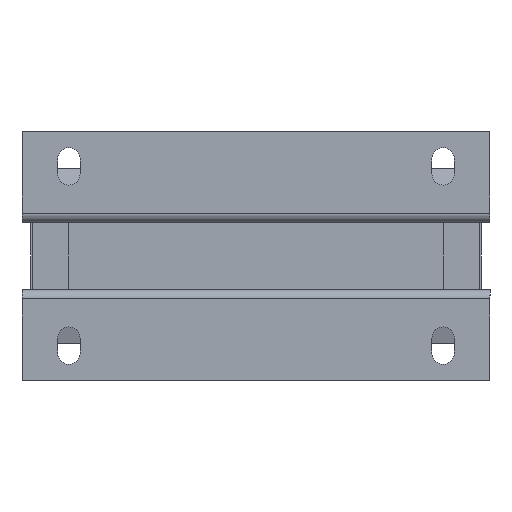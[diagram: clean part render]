
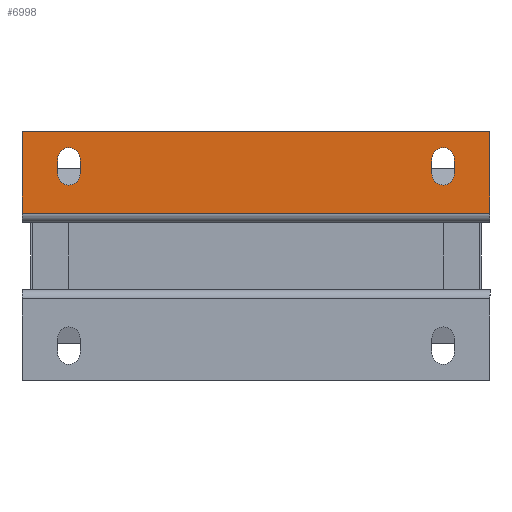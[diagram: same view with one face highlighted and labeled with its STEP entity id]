
A CAD part, front view. The second image highlights one B-rep face of the part: STEP entity #6998.
In plain terms, the highlighted planar face has unit normal (0, -1, 0).
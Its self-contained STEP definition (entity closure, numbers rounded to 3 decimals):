
#66 = VERTEX_POINT ( 'NONE', #2026 ) ;
#299 = VERTEX_POINT ( 'NONE', #3651 ) ;
#383 = DIRECTION ( 'NONE',  ( 0., 0., 1. ) ) ;
#537 = CIRCLE ( 'NONE', #11386, 2.4 ) ;
#616 = ORIENTED_EDGE ( 'NONE', *, *, #9431, .T. ) ;
#710 = ORIENTED_EDGE ( 'NONE', *, *, #3116, .T. ) ;
#736 = CIRCLE ( 'NONE', #2407, 2.4 ) ;
#826 = ORIENTED_EDGE ( 'NONE', *, *, #9213, .T. ) ;
#908 = DIRECTION ( 'NONE',  ( 1., 0., 0. ) ) ;
#957 = EDGE_CURVE ( 'NONE', #8330, #299, #537, .T. ) ;
#986 = LINE ( 'NONE', #1850, #6992 ) ;
#1199 = ORIENTED_EDGE ( 'NONE', *, *, #2704, .T. ) ;
#1372 = LINE ( 'NONE', #5336, #10038 ) ;
#1457 = AXIS2_PLACEMENT_3D ( 'NONE', #12070, #11082, #10102 ) ;
#1674 = EDGE_CURVE ( 'NONE', #4477, #11687, #5210, .T. ) ;
#1833 = AXIS2_PLACEMENT_3D ( 'NONE', #11451, #6629, #8394 ) ;
#1850 = CARTESIAN_POINT ( 'NONE',  ( 50., 0., 9.15 ) ) ;
#1971 = DIRECTION ( 'NONE',  ( 1., 0., 0. ) ) ;
#2026 = CARTESIAN_POINT ( 'NONE',  ( 37.6, 0., 20.75 ) ) ;
#2313 = AXIS2_PLACEMENT_3D ( 'NONE', #7581, #3717, #10441 ) ;
#2407 = AXIS2_PLACEMENT_3D ( 'NONE', #4698, #12491, #11690 ) ;
#2624 = CARTESIAN_POINT ( 'NONE',  ( -37.6, 0., 20.75 ) ) ;
#2691 = VECTOR ( 'NONE', #10602, 1000. ) ;
#2704 = EDGE_CURVE ( 'NONE', #8050, #12935, #7930, .T. ) ;
#2776 = CARTESIAN_POINT ( 'NONE',  ( 40., 0., 17.55 ) ) ;
#2864 = VERTEX_POINT ( 'NONE', #3167 ) ;
#2979 = CARTESIAN_POINT ( 'NONE',  ( -50., 0., 9.15 ) ) ;
#3033 = LINE ( 'NONE', #10989, #11921 ) ;
#3116 = EDGE_CURVE ( 'NONE', #5576, #5620, #3033, .T. ) ;
#3167 = CARTESIAN_POINT ( 'NONE',  ( -37.6, 0., 17.55 ) ) ;
#3373 = PLANE ( 'NONE',  #1457 ) ;
#3460 = DIRECTION ( 'NONE',  ( 0., 0., -1. ) ) ;
#3617 = ORIENTED_EDGE ( 'NONE', *, *, #12941, .T. ) ;
#3651 = CARTESIAN_POINT ( 'NONE',  ( 37.6, 0., 17.55 ) ) ;
#3717 = DIRECTION ( 'NONE',  ( 0., 1., 0. ) ) ;
#3753 = ORIENTED_EDGE ( 'NONE', *, *, #957, .T. ) ;
#3812 = VERTEX_POINT ( 'NONE', #12276 ) ;
#3848 = CARTESIAN_POINT ( 'NONE',  ( 50., 0., 26.65 ) ) ;
#4477 = VERTEX_POINT ( 'NONE', #11301 ) ;
#4698 = CARTESIAN_POINT ( 'NONE',  ( 40., 0., 20.75 ) ) ;
#4921 = ORIENTED_EDGE ( 'NONE', *, *, #7323, .T. ) ;
#4938 = EDGE_LOOP ( 'NONE', ( #710, #826, #8546, #8583 ) ) ;
#4964 = ORIENTED_EDGE ( 'NONE', *, *, #8544, .T. ) ;
#5111 = CARTESIAN_POINT ( 'NONE',  ( -50., 0., 26.65 ) ) ;
#5179 = CARTESIAN_POINT ( 'NONE',  ( 37.6, 0., 20.75 ) ) ;
#5210 = LINE ( 'NONE', #9139, #8385 ) ;
#5336 = CARTESIAN_POINT ( 'NONE',  ( -42.4, 0., 20.75 ) ) ;
#5370 = DIRECTION ( 'NONE',  ( 0., 0., 1. ) ) ;
#5576 = VERTEX_POINT ( 'NONE', #5111 ) ;
#5620 = VERTEX_POINT ( 'NONE', #2979 ) ;
#5862 = LINE ( 'NONE', #3848, #12259 ) ;
#5956 = EDGE_CURVE ( 'NONE', #3812, #8330, #11582, .T. ) ;
#6093 = VECTOR ( 'NONE', #3460, 1000. ) ;
#6113 = FACE_BOUND ( 'NONE', #7041, .T. ) ;
#6320 = CARTESIAN_POINT ( 'NONE',  ( -37.6, 0., 20.75 ) ) ;
#6629 = DIRECTION ( 'NONE',  ( 0., 1., 0. ) ) ;
#6992 = VECTOR ( 'NONE', #1971, 1000. ) ;
#6998 = ADVANCED_FACE ( 'NONE', ( #6113, #9381, #7230 ), #3373, .F. ) ;
#7041 = EDGE_LOOP ( 'NONE', ( #4964, #11003, #10256, #3753 ) ) ;
#7230 = FACE_OUTER_BOUND ( 'NONE', #4938, .T. ) ;
#7233 = CARTESIAN_POINT ( 'NONE',  ( -42.4, 0., 17.55 ) ) ;
#7323 = EDGE_CURVE ( 'NONE', #2864, #8106, #10151, .T. ) ;
#7532 = CARTESIAN_POINT ( 'NONE',  ( 50., 0., 9.15 ) ) ;
#7581 = CARTESIAN_POINT ( 'NONE',  ( -40., 0., 20.75 ) ) ;
#7742 = DIRECTION ( 'NONE',  ( 0., 0., -1. ) ) ;
#7793 = DIRECTION ( 'NONE',  ( 0., 1., 0. ) ) ;
#7930 = CIRCLE ( 'NONE', #2313, 2.4 ) ;
#7932 = CARTESIAN_POINT ( 'NONE',  ( 42.4, 0., 17.55 ) ) ;
#7949 = EDGE_CURVE ( 'NONE', #5576, #4477, #5862, .T. ) ;
#8050 = VERTEX_POINT ( 'NONE', #8342 ) ;
#8106 = VERTEX_POINT ( 'NONE', #7233 ) ;
#8330 = VERTEX_POINT ( 'NONE', #7932 ) ;
#8342 = CARTESIAN_POINT ( 'NONE',  ( -42.4, 0., 20.75 ) ) ;
#8385 = VECTOR ( 'NONE', #11164, 1000. ) ;
#8394 = DIRECTION ( 'NONE',  ( -1., 0., 0. ) ) ;
#8544 = EDGE_CURVE ( 'NONE', #299, #66, #12318, .T. ) ;
#8546 = ORIENTED_EDGE ( 'NONE', *, *, #1674, .F. ) ;
#8583 = ORIENTED_EDGE ( 'NONE', *, *, #7949, .F. ) ;
#9139 = CARTESIAN_POINT ( 'NONE',  ( 50., 0., 8.15 ) ) ;
#9213 = EDGE_CURVE ( 'NONE', #5620, #11687, #986, .T. ) ;
#9381 = FACE_BOUND ( 'NONE', #11798, .T. ) ;
#9431 = EDGE_CURVE ( 'NONE', #12935, #2864, #10514, .T. ) ;
#10038 = VECTOR ( 'NONE', #383, 1000. ) ;
#10102 = DIRECTION ( 'NONE',  ( 0., 0., 1. ) ) ;
#10151 = CIRCLE ( 'NONE', #1833, 2.4 ) ;
#10256 = ORIENTED_EDGE ( 'NONE', *, *, #5956, .T. ) ;
#10441 = DIRECTION ( 'NONE',  ( -1., 0., 0. ) ) ;
#10514 = LINE ( 'NONE', #2624, #6093 ) ;
#10602 = DIRECTION ( 'NONE',  ( 0., 0., -1. ) ) ;
#10666 = DIRECTION ( 'NONE',  ( -1., 0., 0. ) ) ;
#10761 = EDGE_CURVE ( 'NONE', #66, #3812, #736, .T. ) ;
#10989 = CARTESIAN_POINT ( 'NONE',  ( -50., 0., 8.15 ) ) ;
#11003 = ORIENTED_EDGE ( 'NONE', *, *, #10761, .T. ) ;
#11082 = DIRECTION ( 'NONE',  ( 0., 1., 0. ) ) ;
#11164 = DIRECTION ( 'NONE',  ( 0., 0., -1. ) ) ;
#11301 = CARTESIAN_POINT ( 'NONE',  ( 50., 0., 26.65 ) ) ;
#11386 = AXIS2_PLACEMENT_3D ( 'NONE', #2776, #7793, #10666 ) ;
#11451 = CARTESIAN_POINT ( 'NONE',  ( -40., 0., 17.55 ) ) ;
#11582 = LINE ( 'NONE', #12772, #2691 ) ;
#11687 = VERTEX_POINT ( 'NONE', #7532 ) ;
#11690 = DIRECTION ( 'NONE',  ( -1., 0., 0. ) ) ;
#11798 = EDGE_LOOP ( 'NONE', ( #3617, #1199, #616, #4921 ) ) ;
#11921 = VECTOR ( 'NONE', #7742, 1000. ) ;
#12070 = CARTESIAN_POINT ( 'NONE',  ( -50., 0., 8.15 ) ) ;
#12259 = VECTOR ( 'NONE', #908, 1000. ) ;
#12276 = CARTESIAN_POINT ( 'NONE',  ( 42.4, 0., 20.75 ) ) ;
#12318 = LINE ( 'NONE', #5179, #12863 ) ;
#12491 = DIRECTION ( 'NONE',  ( 0., 1., 0. ) ) ;
#12772 = CARTESIAN_POINT ( 'NONE',  ( 42.4, 0., 20.75 ) ) ;
#12863 = VECTOR ( 'NONE', #5370, 1000. ) ;
#12935 = VERTEX_POINT ( 'NONE', #6320 ) ;
#12941 = EDGE_CURVE ( 'NONE', #8106, #8050, #1372, .T. ) ;
